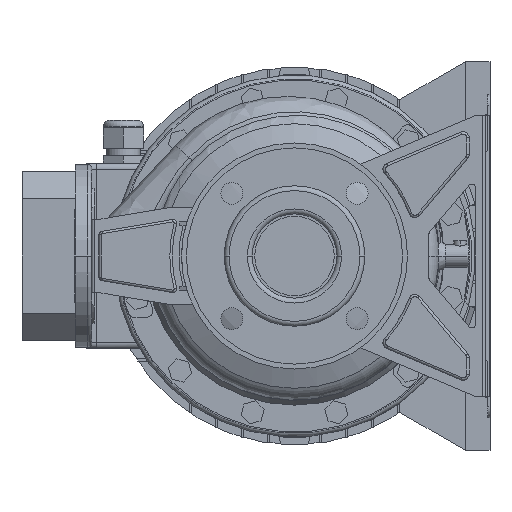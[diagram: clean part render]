
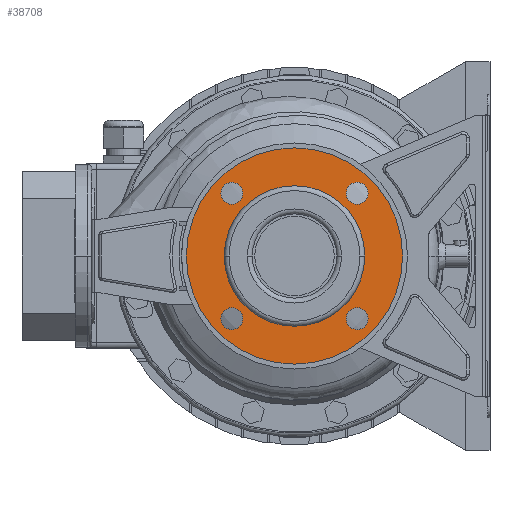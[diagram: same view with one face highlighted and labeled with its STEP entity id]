
A CAD part, left-side view. The second image highlights one B-rep face of the part: STEP entity #38708.
In plain terms, the highlighted planar face has unit normal (-1, 0, 0).
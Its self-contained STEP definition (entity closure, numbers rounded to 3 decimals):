
#38041=CARTESIAN_POINT('',(12.,0.,0.));
#38042=DIRECTION('',(-1.,0.,0.));
#38043=DIRECTION('',(0.,1.,0.));
#38044=AXIS2_PLACEMENT_3D('',#38041,#38042,#38043);
#38049=CARTESIAN_POINT('',(12.,0.,0.));
#38050=DIRECTION('',(1.,0.,0.));
#38051=DIRECTION('',(0.,1.,0.));
#38052=AXIS2_PLACEMENT_3D('',#38049,#38050,#38051);
#38057=CARTESIAN_POINT('',(12.,-51.265,51.265));
#38058=DIRECTION('',(1.,0.,0.));
#38059=DIRECTION('',(0.,1.,0.));
#38060=AXIS2_PLACEMENT_3D('',#38057,#38058,#38059);
#38065=CARTESIAN_POINT('',(12.,-51.265,51.265));
#38066=DIRECTION('',(1.,0.,0.));
#38067=DIRECTION('',(0.,-1.,0.));
#38068=AXIS2_PLACEMENT_3D('',#38065,#38066,#38067);
#38073=CARTESIAN_POINT('',(12.,-51.265,-51.265));
#38074=DIRECTION('',(1.,0.,0.));
#38075=DIRECTION('',(0.,0.,1.));
#38076=AXIS2_PLACEMENT_3D('',#38073,#38074,#38075);
#38081=CARTESIAN_POINT('',(12.,-51.265,-51.265));
#38082=DIRECTION('',(1.,0.,0.));
#38083=DIRECTION('',(0.,0.,-1.));
#38084=AXIS2_PLACEMENT_3D('',#38081,#38082,#38083);
#38089=CARTESIAN_POINT('',(12.,51.265,-51.265));
#38090=DIRECTION('',(1.,0.,0.));
#38091=DIRECTION('',(0.,-1.,0.));
#38092=AXIS2_PLACEMENT_3D('',#38089,#38090,#38091);
#38097=CARTESIAN_POINT('',(12.,51.265,-51.265));
#38098=DIRECTION('',(1.,0.,0.));
#38099=DIRECTION('',(0.,1.,0.));
#38100=AXIS2_PLACEMENT_3D('',#38097,#38098,#38099);
#38105=CARTESIAN_POINT('',(12.,51.265,51.265));
#38106=DIRECTION('',(1.,0.,0.));
#38107=DIRECTION('',(0.,0.,-1.));
#38108=AXIS2_PLACEMENT_3D('',#38105,#38106,#38107);
#38113=CARTESIAN_POINT('',(12.,51.265,51.265));
#38114=DIRECTION('',(1.,0.,0.));
#38115=DIRECTION('',(0.,0.,1.));
#38116=AXIS2_PLACEMENT_3D('',#38113,#38114,#38115);
#38121=CARTESIAN_POINT('',(12.,0.,0.));
#38122=DIRECTION('',(1.,0.,0.));
#38123=DIRECTION('',(0.,1.,0.));
#38124=AXIS2_PLACEMENT_3D('',#38121,#38122,#38123);
#38143=CARTESIAN_POINT('',(12.,0.,0.));
#38144=DIRECTION('',(-1.,0.,0.));
#38145=DIRECTION('',(0.,1.,0.));
#38146=AXIS2_PLACEMENT_3D('',#38143,#38144,#38145);
#38308=CARTESIAN_POINT('',(12.,88.5,0.));
#38310=VERTEX_POINT('',#38308);
#38311=CARTESIAN_POINT('',(12.,57.5,0.));
#38313=VERTEX_POINT('',#38311);
#38340=CARTESIAN_POINT('',(12.,-88.5,0.));
#38342=VERTEX_POINT('',#38340);
#38343=CARTESIAN_POINT('',(12.,-57.5,0.));
#38345=VERTEX_POINT('',#38343);
#38355=CARTESIAN_POINT('',(12.,-42.265,51.265));
#38356=CARTESIAN_POINT('',(12.,-60.265,51.265));
#38357=VERTEX_POINT('',#38355);
#38358=VERTEX_POINT('',#38356);
#38363=CARTESIAN_POINT('',(12.,-51.265,-42.265));
#38364=CARTESIAN_POINT('',(12.,-51.265,-60.265));
#38365=VERTEX_POINT('',#38363);
#38366=VERTEX_POINT('',#38364);
#38371=CARTESIAN_POINT('',(12.,42.265,-51.265));
#38372=CARTESIAN_POINT('',(12.,60.265,-51.265));
#38373=VERTEX_POINT('',#38371);
#38374=VERTEX_POINT('',#38372);
#38379=CARTESIAN_POINT('',(12.,51.265,42.265));
#38380=CARTESIAN_POINT('',(12.,51.265,60.265));
#38381=VERTEX_POINT('',#38379);
#38382=VERTEX_POINT('',#38380);
#38669=CARTESIAN_POINT('',(12.,0.,0.));
#38670=DIRECTION('',(1.,0.,0.));
#38671=DIRECTION('',(0.,-1.,0.));
#38672=AXIS2_PLACEMENT_3D('',#38669,#38670,#38671);
#38673=PLANE('',#38672);
#38674=ORIENTED_EDGE('',*,*,#38662,.F.);
#38675=ORIENTED_EDGE('',*,*,#38651,.T.);
#38676=EDGE_LOOP('',(#38674,#38675));
#38677=FACE_OUTER_BOUND('',#38676,.F.);
#38679=ORIENTED_EDGE('',*,*,#38678,.F.);
#38681=ORIENTED_EDGE('',*,*,#38680,.T.);
#38682=EDGE_LOOP('',(#38679,#38681));
#38683=FACE_BOUND('',#38682,.F.);
#38685=ORIENTED_EDGE('',*,*,#38684,.F.);
#38687=ORIENTED_EDGE('',*,*,#38686,.F.);
#38688=EDGE_LOOP('',(#38685,#38687));
#38689=FACE_BOUND('',#38688,.F.);
#38691=ORIENTED_EDGE('',*,*,#38690,.F.);
#38693=ORIENTED_EDGE('',*,*,#38692,.F.);
#38694=EDGE_LOOP('',(#38691,#38693));
#38695=FACE_BOUND('',#38694,.F.);
#38697=ORIENTED_EDGE('',*,*,#38696,.F.);
#38699=ORIENTED_EDGE('',*,*,#38698,.F.);
#38700=EDGE_LOOP('',(#38697,#38699));
#38701=FACE_BOUND('',#38700,.F.);
#38703=ORIENTED_EDGE('',*,*,#38702,.F.);
#38705=ORIENTED_EDGE('',*,*,#38704,.F.);
#38706=EDGE_LOOP('',(#38703,#38705));
#38707=FACE_BOUND('',#38706,.F.);
#38045=CIRCLE('',#38044,88.5);
#38053=CIRCLE('',#38052,88.5);
#38061=CIRCLE('',#38060,9.);
#38069=CIRCLE('',#38068,9.);
#38077=CIRCLE('',#38076,9.);
#38085=CIRCLE('',#38084,9.);
#38093=CIRCLE('',#38092,9.);
#38101=CIRCLE('',#38100,9.);
#38109=CIRCLE('',#38108,9.);
#38117=CIRCLE('',#38116,9.);
#38125=CIRCLE('',#38124,57.5);
#38147=CIRCLE('',#38146,57.5);
#38651=EDGE_CURVE('',#38310,#38342,#38053,.T.);
#38662=EDGE_CURVE('',#38310,#38342,#38045,.T.);
#38678=EDGE_CURVE('',#38313,#38345,#38125,.T.);
#38680=EDGE_CURVE('',#38313,#38345,#38147,.T.);
#38684=EDGE_CURVE('',#38357,#38358,#38061,.T.);
#38686=EDGE_CURVE('',#38358,#38357,#38069,.T.);
#38690=EDGE_CURVE('',#38365,#38366,#38077,.T.);
#38692=EDGE_CURVE('',#38366,#38365,#38085,.T.);
#38696=EDGE_CURVE('',#38373,#38374,#38093,.T.);
#38698=EDGE_CURVE('',#38374,#38373,#38101,.T.);
#38702=EDGE_CURVE('',#38381,#38382,#38109,.T.);
#38704=EDGE_CURVE('',#38382,#38381,#38117,.T.);
#38708=ADVANCED_FACE('',(#38677,#38683,#38689,#38695,#38701,#38707),#38673,.F.);
